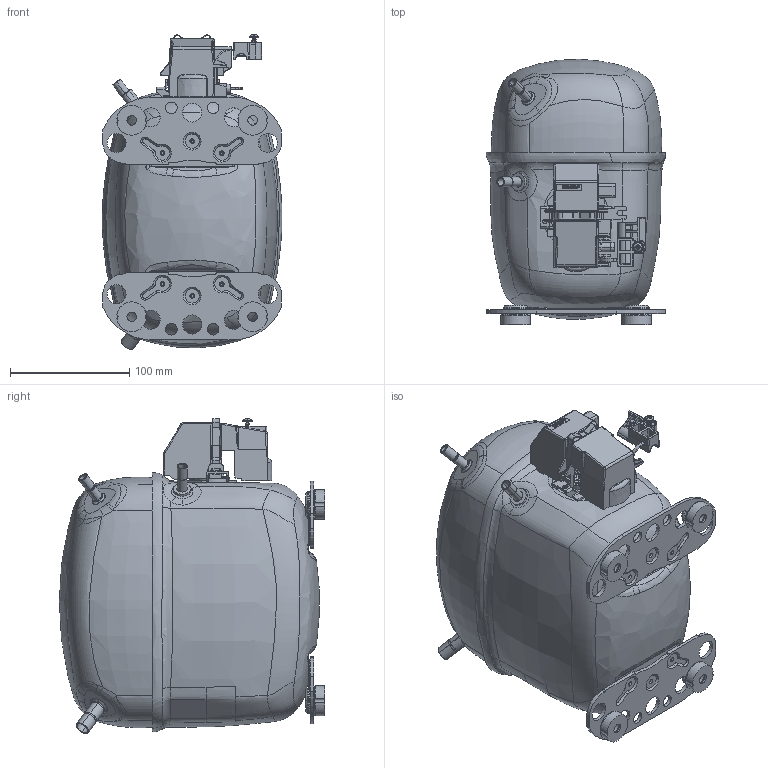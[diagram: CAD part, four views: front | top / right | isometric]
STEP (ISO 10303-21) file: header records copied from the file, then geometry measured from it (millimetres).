
FILE_DESCRIPTION((''),'2;1');
FILE_NAME('104B1421_104B1419_NONE_ASM','2018-11-15T',('CN6198'),(''),'CREO PARAMETRIC BY PTC INC, 2015380','CREO PARAMETRIC BY PTC INC, 2015380','');
FILE_SCHEMA(('CONFIG_CONTROL_DESIGN'));
Products named in the file (38): 104B1404_DES; 104B0321; 104B0378; 104B0480_AF0; 104B1046_ASM; 104B0516; 104B0480_AF1; 104B1461_ASM; 104B0517; 104B0480_AF2; 104B1462_ASM; 104B0504; 104B0349; 104B0674; 104B0635; 104B0677_BENT; 104B0689_BENT_ASM; 60-35175_1; 12-60705_GLASS_1; 12-60705_GLASS-OA0_1; 12-60705_GLASS-OA1_1; 50-41378_1; 60-41459_1; ASSEM1_1_ASM; 117-3629_ASM; 104B1421_ASM; 104B0606; 104B0647_AF0; 104B0681_AF1; 104B2517; 104B2515_16; 104B1419_ASM; 105B4409; 681Z1111; 117U0424; 117U1028_ASM; 118-3661; 104B1421_104B1419_NONE_ASM
Assembly tree (43 placements, depth 5):
  104B1421_104B1419_NONE_ASM
    104B1421_ASM
      104B1404_DES
      104B0321  x2
      104B1046_ASM
        104B0378
        104B0480_AF0
      104B1461_ASM
        104B0516
        104B0480_AF1
      104B1462_ASM
        104B0517
        104B0480_AF2
      104B0504
      104B0349
      104B0689_BENT_ASM
        104B0674
        104B0635
        104B0677_BENT
      117-3629_ASM
        ASSEM1_1_ASM
          60-35175_1  x3
          12-60705_GLASS_1
          12-60705_GLASS-OA0_1
          12-60705_GLASS-OA1_1
          50-41378_1
          60-41459_1
    104B1419_ASM
      104B0606
      104B0647_AF0
      104B0681_AF1
      104B2517
      104B2515_16
    117U1028_ASM
      105B4409
      681Z1111
      117U0424
    118-3661  x4
Bounding box: 150.84 x 222.82 x 264.54 mm (x, y, z)
Volume: 565111.9 mm3; surface area: 414744.7 mm2
Topology: 34 solids, 34 shells, 4506 faces, 11683 edges, 7342 vertices
Faces by surface type: plane 2302, cylinder 873, bspline 595, torus 308, cone 267, sphere 124, extrusion 25, revolution 12
Entity records: 229301 total; most frequent: CARTESIAN_POINT 127978, ORIENTED_EDGE 22174, DIRECTION 18965, EDGE_CURVE 11087, VERTEX_POINT 7017, VECTOR 7001, LINE 6976, AXIS2_PLACEMENT_3D 5976
